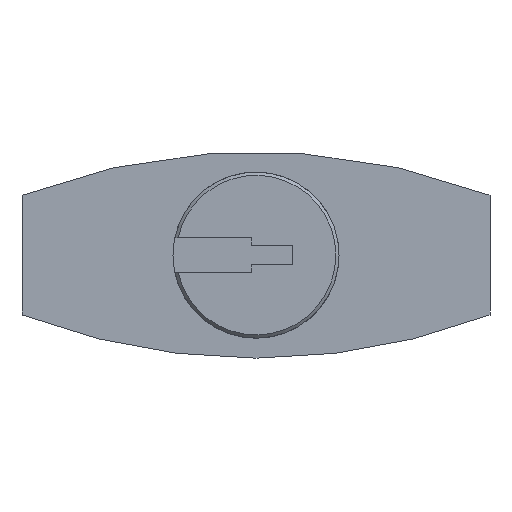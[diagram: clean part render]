
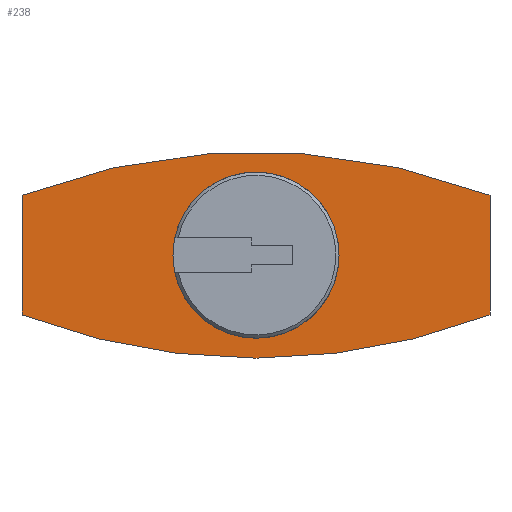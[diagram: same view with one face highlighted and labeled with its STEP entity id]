
A CAD part, front view. The second image highlights one B-rep face of the part: STEP entity #238.
In plain terms, the highlighted planar face has unit normal (0, -1, 0).
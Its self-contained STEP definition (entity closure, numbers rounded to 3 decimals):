
#18 = DIRECTION ( 'NONE',  ( 0., 0., 1. ) ) ;
#19 = DIRECTION ( 'NONE',  ( 0., 1., 0. ) ) ;
#20 = CARTESIAN_POINT ( 'NONE',  ( 0., 0., 34.645 ) ) ;
#46 = DIRECTION ( 'NONE',  ( 0., 0., 1. ) ) ;
#76 = CARTESIAN_POINT ( 'NONE',  ( -14.65, 0., -3.75 ) ) ;
#104 = DIRECTION ( 'NONE',  ( 0., 0., -1. ) ) ;
#106 = CARTESIAN_POINT ( 'NONE',  ( 14.65, 0., -3.75 ) ) ;
#112 = DIRECTION ( 'NONE',  ( 1., 0., 0. ) ) ;
#113 = DIRECTION ( 'NONE',  ( 0., -1., 0. ) ) ;
#114 = CARTESIAN_POINT ( 'NONE',  ( 0., 0., 0. ) ) ;
#116 = DIRECTION ( 'NONE',  ( 0., 0., 1. ) ) ;
#117 = DIRECTION ( 'NONE',  ( 0., 1., 0. ) ) ;
#118 = CARTESIAN_POINT ( 'NONE',  ( 0., 0., 34.645 ) ) ;
#147 = DIRECTION ( 'NONE',  ( 0., 0., 1. ) ) ;
#148 = CARTESIAN_POINT ( 'NONE',  ( -14.65, 0., -3.75 ) ) ;
#149 = DIRECTION ( 'NONE',  ( 0., 1., 0. ) ) ;
#150 = CARTESIAN_POINT ( 'NONE',  ( 0., 0., -34.645 ) ) ;
#153 = CARTESIAN_POINT ( 'NONE',  ( 14.65, 0., 3.75 ) ) ;
#179 = DIRECTION ( 'NONE',  ( 1., 0., 0. ) ) ;
#180 = DIRECTION ( 'NONE',  ( 0., -1., 0. ) ) ;
#181 = CARTESIAN_POINT ( 'NONE',  ( 0., 0., 0. ) ) ;
#194 = CARTESIAN_POINT ( 'NONE',  ( 0., 0., -6.45 ) ) ;
#206 = CARTESIAN_POINT ( 'NONE',  ( 5.2, 0., 0. ) ) ;
#212 = CARTESIAN_POINT ( 'NONE',  ( -14.65, 0., 3.75 ) ) ;
#213 = CARTESIAN_POINT ( 'NONE',  ( -5.2, 0., 0. ) ) ;
#215 = CARTESIAN_POINT ( 'NONE',  ( 14.65, 0., -3.75 ) ) ;
#238 = ADVANCED_FACE ( 'NONE', ( #400, #394 ), #691, .F. ) ;
#302 = CIRCLE ( 'NONE', #774, 41.095 ) ;
#304 = VECTOR ( 'NONE', #104, 1000. ) ;
#306 = LINE ( 'NONE', #106, #304 ) ;
#312 = CIRCLE ( 'NONE', #781, 5.2 ) ;
#313 = CIRCLE ( 'NONE', #782, 41.095 ) ;
#322 = CIRCLE ( 'NONE', #787, 41.095 ) ;
#335 = CIRCLE ( 'NONE', #790, 5.2 ) ;
#360 = VECTOR ( 'NONE', #46, 1000. ) ;
#363 = LINE ( 'NONE', #76, #360 ) ;
#394 = FACE_OUTER_BOUND ( 'NONE', #432, .T. ) ;
#400 = FACE_BOUND ( 'NONE', #411, .T. ) ;
#411 = EDGE_LOOP ( 'NONE', ( #445, #446 ) ) ;
#432 = EDGE_LOOP ( 'NONE', ( #448, #449, #450, #451, #452 ) ) ;
#445 = ORIENTED_EDGE ( 'NONE', *, *, #731, .F. ) ;
#446 = ORIENTED_EDGE ( 'NONE', *, *, #748, .F. ) ;
#448 = ORIENTED_EDGE ( 'NONE', *, *, #740, .F. ) ;
#449 = ORIENTED_EDGE ( 'NONE', *, *, #712, .F. ) ;
#450 = ORIENTED_EDGE ( 'NONE', *, *, #747, .F. ) ;
#451 = ORIENTED_EDGE ( 'NONE', *, *, #761, .F. ) ;
#452 = ORIENTED_EDGE ( 'NONE', *, *, #754, .F. ) ;
#576 = VERTEX_POINT ( 'NONE', #215 ) ;
#577 = VERTEX_POINT ( 'NONE', #212 ) ;
#580 = VERTEX_POINT ( 'NONE', #206 ) ;
#589 = VERTEX_POINT ( 'NONE', #213 ) ;
#593 = VERTEX_POINT ( 'NONE', #194 ) ;
#610 = VERTEX_POINT ( 'NONE', #153 ) ;
#611 = VERTEX_POINT ( 'NONE', #148 ) ;
#689 = DIRECTION ( 'NONE',  ( 0., 0., 1. ) ) ;
#691 = PLANE ( 'NONE',  #737 ) ;
#693 = CARTESIAN_POINT ( 'NONE',  ( 0., 0., -34.645 ) ) ;
#697 = DIRECTION ( 'NONE',  ( 0., 1., 0. ) ) ;
#712 = EDGE_CURVE ( 'NONE', #611, #577, #363, .T. ) ;
#731 = EDGE_CURVE ( 'NONE', #580, #589, #335, .T. ) ;
#737 = AXIS2_PLACEMENT_3D ( 'NONE', #693, #697, #689 ) ;
#740 = EDGE_CURVE ( 'NONE', #577, #610, #322, .T. ) ;
#747 = EDGE_CURVE ( 'NONE', #593, #611, #313, .T. ) ;
#748 = EDGE_CURVE ( 'NONE', #589, #580, #312, .T. ) ;
#754 = EDGE_CURVE ( 'NONE', #610, #576, #306, .T. ) ;
#761 = EDGE_CURVE ( 'NONE', #576, #593, #302, .T. ) ;
#774 = AXIS2_PLACEMENT_3D ( 'NONE', #20, #19, #18 ) ;
#781 = AXIS2_PLACEMENT_3D ( 'NONE', #114, #113, #112 ) ;
#782 = AXIS2_PLACEMENT_3D ( 'NONE', #118, #117, #116 ) ;
#787 = AXIS2_PLACEMENT_3D ( 'NONE', #150, #149, #147 ) ;
#790 = AXIS2_PLACEMENT_3D ( 'NONE', #181, #180, #179 ) ;
